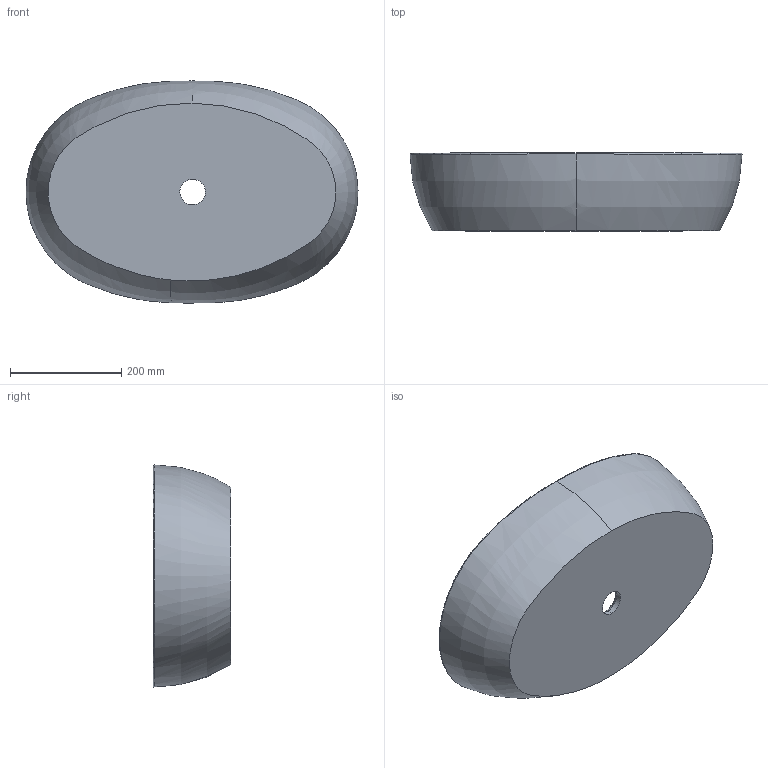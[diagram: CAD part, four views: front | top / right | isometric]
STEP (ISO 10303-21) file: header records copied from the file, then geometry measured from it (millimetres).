
FILE_DESCRIPTION(/* description */ (''),/* implementation_level */ '2;1');
FILE_NAME(/* name */ 'ECI60',/* time_stamp */ '2017-12-11T12:06:50+01:00',/* author */ (''),/* organization */ (''),/* preprocessor_version */ 'ST-DEVELOPER v15',/* originating_system */ '',/* authorisation */ '');
FILE_SCHEMA (('AUTOMOTIVE_DESIGN'));
Length unit declared in the file: millimetre
Products named in the file (1): Document
Bounding box: 597.7 x 140 x 399.81 mm (x, y, z)
Volume: 7602244.4 mm3; surface area: 638686.8 mm2
Topology: 1 solids, 2 shells, 33 faces, 91 edges, 64 vertices
Faces by surface type: bspline 30, plane 3
Entity records: 7945 total; most frequent: CARTESIAN_POINT 7443, ORIENTED_EDGE 170, EDGE_CURVE 87, VERTEX_POINT 56, EDGE_LOOP 35, ADVANCED_FACE 33, FACE_OUTER_BOUND 33, B_SPLINE_CURVE_WITH_KNOTS 28
